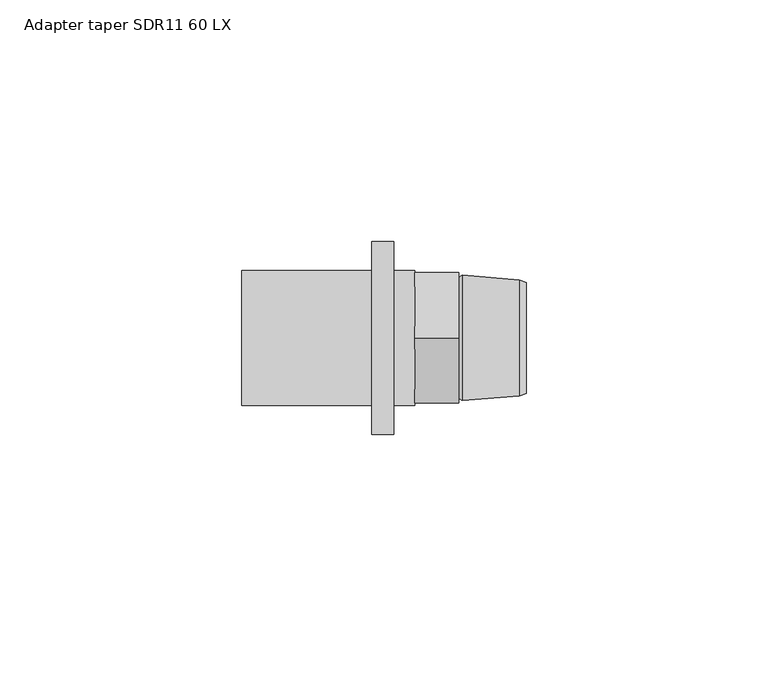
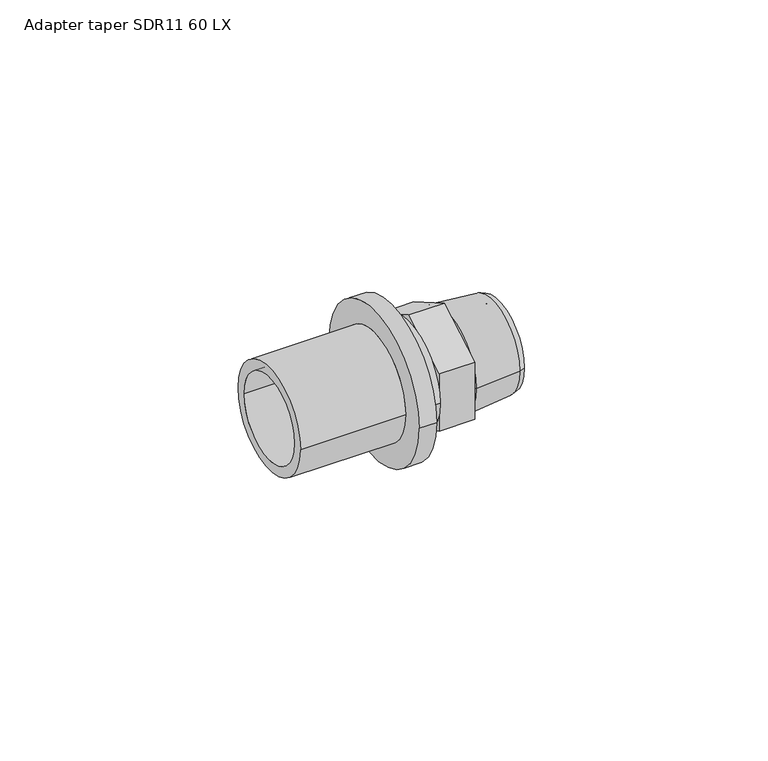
"""IFC4 building model written with IfcOpenShell, lengths in millimetres: pipe fitting geometry, Adapter taper SDR11 LX 60 Grad : Adapter taper SDR11 60 LX."""

from ifc_helpers import new_model, si_unit, frame, origin, place, context, project, spatial, polyline, circle_curve, outline, extrude, source, transform, mapped, element, save
from ifc_brep_helpers import plane_surface, cylinder_surface, revolved_surface, advanced_brep


def adapter_taper_sdr11_60_lx_8a038b16(model_context):
    return source(origin(), model_context, "Body", "SolidModel", [
        advanced_brep(
        [(-8.9, 13.95, 0.0), (-8.9, -13.95, 0.0), (-35.9, -13.95, 0.0), (-35.9, 13.95, 0.0), (-4.4, 20.0, 0.0), (-4.4, -20.0, 0.0), (-8.9, -20.0, 0.0), (-8.9, 20.0, 0.0), (0.0, 13.95, 0.0), (0.0, -13.95, 0.0), (-4.4, -13.95, 0.0), (-4.4, 13.95, 0.0), (-35.9, 11.2, 0.0), (-35.9, -11.2, 0.0), (0.0, -11.2, 0.0), (0.0, 11.2, 0.0)],
        [
            (0, 1, circle_curve(frame((-8.9, 0.0, 0.0), z_axis=(-1.0, 0.0, 0.0), x_axis=(0.0, -1.0, 0.0)), 13.95)),
            (1, 2),
            (2, 3, circle_curve(frame((-35.9, 0.0, 0.0), z_axis=(1.0, 0.0, 0.0), x_axis=(0.0, -1.0, 0.0)), 13.95)),
            (3, 0),
            (4, 5, circle_curve(frame((-4.4, 0.0, 0.0), z_axis=(-1.0, 0.0, 0.0), x_axis=(0.0, -1.0, 0.0)), 20.0)),
            (5, 6),
            (6, 7, circle_curve(frame((-8.9, 0.0, 0.0), z_axis=(1.0, 0.0, 0.0), x_axis=(0.0, -1.0, 0.0)), 20.0)),
            (7, 4),
            (8, 9, circle_curve(frame((0.0, 0.0, 0.0), z_axis=(-1.0, 0.0, 0.0), x_axis=(0.0, -1.0, 0.0)), 13.95)),
            (9, 10),
            (10, 11, circle_curve(frame((-4.4, 0.0, 0.0), z_axis=(1.0, 0.0, 0.0), x_axis=(0.0, -1.0, 0.0)), 13.95)),
            (11, 8),
            (12, 13, circle_curve(frame((-35.9, 0.0, 0.0), z_axis=(-1.0, 0.0, 0.0), x_axis=(0.0, -1.0, 0.0)), 11.2)),
            (13, 14),
            (14, 15, circle_curve(frame((0.0, 0.0, 0.0), z_axis=(1.0, 0.0, 0.0), x_axis=(0.0, -1.0, 0.0)), 11.2)),
            (15, 12),
            (2, 3, circle_curve(frame((-35.9, 0.0, 0.0), z_axis=(-1.0, 0.0, 0.0), x_axis=(0.0, 1.0, 0.0)), 13.95)),
            (12, 13, circle_curve(frame((-35.9, 0.0, 0.0), z_axis=(1.0, 0.0, 0.0), x_axis=(0.0, 1.0, 0.0)), 11.2)),
            (1, 0, circle_curve(frame((-8.9, 0.0, 0.0), z_axis=(-1.0, 0.0, 0.0), x_axis=(0.0, 1.0, 0.0)), 13.95)),
            (6, 7, circle_curve(frame((-8.9, 0.0, 0.0), z_axis=(-1.0, 0.0, 0.0), x_axis=(0.0, 1.0, 0.0)), 20.0)),
            (5, 4, circle_curve(frame((-4.4, 0.0, 0.0), z_axis=(-1.0, 0.0, 0.0), x_axis=(0.0, 1.0, 0.0)), 20.0)),
            (10, 11, circle_curve(frame((-4.4, 0.0, 0.0), z_axis=(-1.0, 0.0, 0.0), x_axis=(0.0, 1.0, 0.0)), 13.95)),
            (9, 8, circle_curve(frame((0.0, 0.0, 0.0), z_axis=(-1.0, 0.0, 0.0), x_axis=(0.0, 1.0, 0.0)), 13.95)),
            (14, 15, circle_curve(frame((0.0, 0.0, 0.0), z_axis=(-1.0, 0.0, 0.0), x_axis=(0.0, 1.0, 0.0)), 11.2)),
        ],
        [
            cylinder_surface(frame((0.0, 0.0, 0.0), z_axis=(1.0, 0.0, 0.0), x_axis=(0.0, -1.0, 0.0)), 13.95),
            cylinder_surface(frame((0.0, 0.0, 0.0), z_axis=(1.0, 0.0, 0.0), x_axis=(0.0, -1.0, 0.0)), 20.0),
            revolved_surface(polyline([(0.0, -11.2, 0.0), (-35.9, -11.2, 0.0)]), (0.0, 0.0, 0.0), (1.0, 0.0, 0.0)),
            plane_surface(frame((-35.9, 0.0, 0.0), z_axis=(-1.0, 0.0, 0.0), x_axis=(0.0, 1.0, 0.0))),
            cylinder_surface(frame((0.0, 0.0, 0.0), z_axis=(1.0, 0.0, 0.0), x_axis=(0.0, 1.0, 0.0)), 13.95),
            plane_surface(frame((-8.9, 0.0, 0.0), z_axis=(-1.0, 0.0, 0.0), x_axis=(0.0, 1.0, 0.0))),
            cylinder_surface(frame((0.0, 0.0, 0.0), z_axis=(1.0, 0.0, 0.0), x_axis=(0.0, 1.0, 0.0)), 20.0),
            plane_surface(frame((-4.4, 0.0, 0.0), z_axis=(1.0, 0.0, 0.0), x_axis=(0.0, 1.0, 0.0))),
            plane_surface(frame((0.0, 0.0, 0.0), z_axis=(1.0, 0.0, 0.0), x_axis=(0.0, 1.0, 0.0))),
            revolved_surface(polyline([(0.0, 11.2, 0.0), (-35.9, 11.2, 0.0)]), (0.0, 0.0, 0.0), (1.0, 0.0, 0.0)),
        ],
        [
            (0, [[1, 2, 3, 4]]),
            (1, [[5, 6, 7, 8]]),
            (0, [[9, 10, 11, 12]]),
            (2, [[13, 14, 15, 16]]),
            (3, [[17, -3], [18, -13]]),
            (4, [[19, -4, -17, -2]]),
            (5, [[20, -7], [-19, -1]]),
            (6, [[21, -8, -20, -6]]),
            (7, [[-21, -5], [22, -11]]),
            (4, [[23, -12, -22, -10]]),
            (8, [[-23, -9], [24, -15]]),
            (9, [[-18, -16, -24, -14]]),
        ],
    ),
        advanced_brep(
        [(10.2032803, 9.0, 0.0), (10.2032803, -9.0, 0.0), (23.1, -9.0, 0.0), (23.1, 9.0, 0.0), (9.1, 7.8967197, 0.0), (9.1, -7.8967197, 0.0), (9.8406902, 13.0, 0.0), (9.8406902, -13.0, 0.0), (9.1, -12.5, 0.0), (9.1, 12.5, 0.0), (21.6000007, 12.0, 0.0), (21.6000007, -12.0, 0.0), (23.1, 11.5, 0.0), (23.1, -11.5, 0.0)],
        [
            (0, 1, circle_curve(frame((10.2032803, 0.0, 0.0), z_axis=(-1.0, 0.0, 0.0), x_axis=(0.0, -1.0, 0.0)), 9.0)),
            (1, 2),
            (2, 3, circle_curve(frame((23.1, 0.0, 0.0), z_axis=(1.0, 0.0, 0.0), x_axis=(0.0, -1.0, 0.0)), 9.0)),
            (3, 0),
            (4, 5, circle_curve(frame((9.1, 0.0, 0.0), z_axis=(-1.0, 0.0, 0.0), x_axis=(0.0, -1.0, 0.0)), 7.8967197)),
            (5, 1),
            (0, 4),
            (6, 7, circle_curve(frame((9.8406902, 0.0, 0.0), z_axis=(-1.0, 0.0, 0.0), x_axis=(0.0, -1.0, 0.0)), 13.0)),
            (7, 8),
            (8, 9, circle_curve(frame((9.1, 0.0, 0.0), z_axis=(1.0, 0.0, 0.0), x_axis=(0.0, -1.0, 0.0)), 12.5)),
            (9, 6),
            (10, 11, circle_curve(frame((21.6000007, 0.0, 0.0), z_axis=(-1.0, 0.0, 0.0), x_axis=(0.0, -1.0, 0.0)), 12.0)),
            (11, 7),
            (6, 10),
            (12, 13, circle_curve(frame((23.1, 0.0, 0.0), z_axis=(-1.0, 0.0, 0.0), x_axis=(0.0, -1.0, 0.0)), 11.5)),
            (13, 11),
            (10, 12),
            (1, 0, circle_curve(frame((10.2032803, 0.0, 0.0), z_axis=(-1.0, 0.0, 0.0), x_axis=(0.0, 1.0, 0.0)), 9.0)),
            (3, 2, circle_curve(frame((23.1, 0.0, 0.0), z_axis=(1.0, 0.0, 0.0), x_axis=(0.0, 1.0, 0.0)), 9.0)),
            (5, 4, circle_curve(frame((9.1, 0.0, 0.0), z_axis=(-1.0, 0.0, 0.0), x_axis=(0.0, 1.0, 0.0)), 7.8967197)),
            (8, 9, circle_curve(frame((9.1, 0.0, 0.0), z_axis=(-1.0, 0.0, 0.0), x_axis=(0.0, 1.0, 0.0)), 12.5)),
            (7, 6, circle_curve(frame((9.8406902, 0.0, 0.0), z_axis=(-1.0, 0.0, 0.0), x_axis=(0.0, 1.0, 0.0)), 13.0)),
            (11, 10, circle_curve(frame((21.6000007, 0.0, 0.0), z_axis=(-1.0, 0.0, 0.0), x_axis=(0.0, 1.0, 0.0)), 12.0)),
            (13, 12, circle_curve(frame((23.1, 0.0, 0.0), z_axis=(-1.0, 0.0, 0.0), x_axis=(0.0, 1.0, 0.0)), 11.5)),
        ],
        [
            revolved_surface(polyline([(23.1, -9.0, 0.0), (10.2032803, -9.0, 0.0)]), (0.0, 0.0, 0.0), (1.0, 0.0, 0.0)),
            revolved_surface(polyline([(10.2032803, -9.0, 0.0), (9.1, -7.8967197, 0.0)]), (0.0, 0.0, 0.0), (1.0, 0.0, 0.0)),
            revolved_surface(polyline([(9.1, -12.5, 0.0), (9.8406902, -13.0, 0.0)]), (0.0, 0.0, 0.0), (1.0, 0.0, 0.0)),
            revolved_surface(polyline([(9.8406902, -13.0, 0.0), (21.6000007, -12.0, 0.0)]), (0.0, 0.0, 0.0), (1.0, 0.0, 0.0)),
            revolved_surface(polyline([(21.6000007, -12.0, 0.0), (23.1, -11.5, 0.0)]), (0.0, 0.0, 0.0), (1.0, 0.0, 0.0)),
            revolved_surface(polyline([(23.1, 9.0, 0.0), (10.2032803, 9.0, 0.0)]), (0.0, 0.0, 0.0), (1.0, 0.0, 0.0)),
            revolved_surface(polyline([(10.2032803, 9.0, 0.0), (9.1, 7.8967197, 0.0)]), (0.0, 0.0, 0.0), (1.0, 0.0, 0.0)),
            plane_surface(frame((9.1, 0.0, 0.0), z_axis=(-1.0, 0.0, 0.0), x_axis=(0.0, 1.0, 0.0))),
            revolved_surface(polyline([(9.1, 12.5, 0.0), (9.8406902, 13.0, 0.0)]), (0.0, 0.0, 0.0), (1.0, 0.0, 0.0)),
            revolved_surface(polyline([(9.8406902, 13.0, 0.0), (21.6000007, 12.0, 0.0)]), (0.0, 0.0, 0.0), (1.0, 0.0, 0.0)),
            revolved_surface(polyline([(21.6000007, 12.0, 0.0), (23.1, 11.5, 0.0)]), (0.0, 0.0, 0.0), (1.0, 0.0, 0.0)),
            plane_surface(frame((23.1, 0.0, 0.0), z_axis=(1.0, 0.0, 0.0), x_axis=(0.0, 1.0, 0.0))),
        ],
        [
            (0, [[1, 2, 3, 4]]),
            (1, [[5, 6, -1, 7]]),
            (2, [[8, 9, 10, 11]]),
            (3, [[12, 13, -8, 14]]),
            (4, [[15, 16, -12, 17]]),
            (5, [[18, -4, 19, -2]]),
            (6, [[20, -7, -18, -6]]),
            (7, [[21, -10], [-20, -5]]),
            (8, [[22, -11, -21, -9]]),
            (9, [[23, -14, -22, -13]]),
            (10, [[24, -17, -23, -16]]),
            (11, [[-24, -15], [-19, -3]]),
        ],
    ),
        extrude(outline(polyline([(-13.5, 7.7942286), (0.0, 15.5884573), (13.5, 7.7942286), (13.5, -7.7942286), (0.0, -15.5884573), (-13.5, -7.7942286), (-13.5, 7.7942286)])), frame((0.0, 0.0, 0.0), z_axis=(1.0, 0.0, 0.0), x_axis=(0.0, 1.0, 0.0)), (0.0, 0.0, 1.0), 9.1),
    ])


if __name__ == "__main__":
    model = new_model("IFC4")
    model_context = context("Model", 3, world=origin())
    ifc_project = project(units=[si_unit("LENGTHUNIT", "METRE", prefix="MILLI")], contexts=[model_context])
    site = spatial("IfcSite", under=ifc_project)
    building = spatial("IfcBuilding", under=site)
    placement = place(None, origin())
    adapter_taper_sdr11_60_lx_shape = adapter_taper_sdr11_60_lx_8a038b16(model_context)
    element("IfcPipeFitting", 1, ObjectType="Adapter taper SDR11 LX 60 Grad : Adapter taper SDR11 60 LX", at=placement, inside=building, context=model_context, shape_type="MappedRepresentation", body=[
        mapped(adapter_taper_sdr11_60_lx_shape, transform((0.0, 0.0, 0.0), x_axis=(1.0, 0.0, 0.0), y_axis=(0.0, 1.0, 0.0), z_axis=(0.0, 0.0, 1.0))),
    ])
    save(model, "model.ifc")
